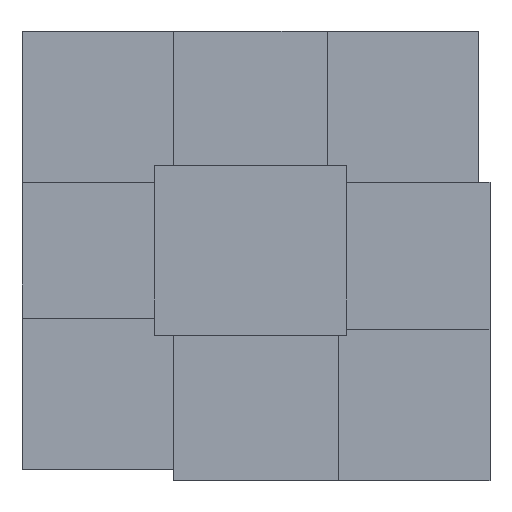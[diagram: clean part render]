
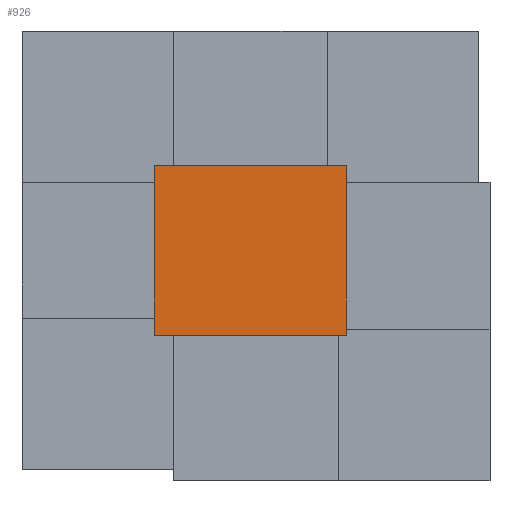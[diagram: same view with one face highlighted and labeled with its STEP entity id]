
A CAD part, left-side view. The second image highlights one B-rep face of the part: STEP entity #926.
In plain terms, the highlighted planar face has unit normal (-1, 0, 0).
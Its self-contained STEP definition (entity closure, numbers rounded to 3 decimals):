
#808=CARTESIAN_POINT('Line Origine',(0.,0.,56.)) ;
#812=CARTESIAN_POINT('Vertex',(0.,0.,0.)) ;
#814=CARTESIAN_POINT('Vertex',(0.,0.,112.)) ;
#883=CARTESIAN_POINT('Vertex',(0.,127.,0.)) ;
#886=CARTESIAN_POINT('Line Origine',(0.,127.,56.)) ;
#890=CARTESIAN_POINT('Vertex',(0.,127.,112.)) ;
#905=CARTESIAN_POINT('Axis2P3D Location',(0.,127.,0.)) ;
#910=CARTESIAN_POINT('Line Origine',(0.,63.5,0.)) ;
#915=CARTESIAN_POINT('Line Origine',(0.,63.5,112.)) ;
#809=DIRECTION('Vector Direction',(0.,0.,1.)) ;
#887=DIRECTION('Vector Direction',(0.,0.,1.)) ;
#906=DIRECTION('Axis2P3D Direction',(-1.,0.,0.)) ;
#907=DIRECTION('Axis2P3D XDirection',(0.,-1.,0.)) ;
#911=DIRECTION('Vector Direction',(0.,-1.,0.)) ;
#916=DIRECTION('Vector Direction',(0.,-1.,0.)) ;
#908=AXIS2_PLACEMENT_3D('Plane Axis2P3D',#905,#906,#907) ;
#921=ORIENTED_EDGE('',*,*,#892,.F.) ;
#922=ORIENTED_EDGE('',*,*,#914,.T.) ;
#923=ORIENTED_EDGE('',*,*,#816,.T.) ;
#924=ORIENTED_EDGE('',*,*,#919,.F.) ;
#810=VECTOR('Line Direction',#809,1.) ;
#888=VECTOR('Line Direction',#887,1.) ;
#912=VECTOR('Line Direction',#911,1.) ;
#917=VECTOR('Line Direction',#916,1.) ;
#926=ADVANCED_FACE('Body.2-molde-superior',(#925),#909,.T.) ;
#816=EDGE_CURVE('',#813,#815,#811,.T.) ;
#892=EDGE_CURVE('',#884,#891,#889,.T.) ;
#914=EDGE_CURVE('',#884,#813,#913,.T.) ;
#919=EDGE_CURVE('',#891,#815,#918,.T.) ;
#920=EDGE_LOOP('',(#921,#922,#923,#924)) ;
#925=FACE_OUTER_BOUND('',#920,.T.) ;
#811=LINE('Line',#808,#810) ;
#889=LINE('Line',#886,#888) ;
#913=LINE('Line',#910,#912) ;
#918=LINE('Line',#915,#917) ;
#909=PLANE('',#908) ;
#813=VERTEX_POINT('',#812) ;
#815=VERTEX_POINT('',#814) ;
#884=VERTEX_POINT('',#883) ;
#891=VERTEX_POINT('',#890) ;
